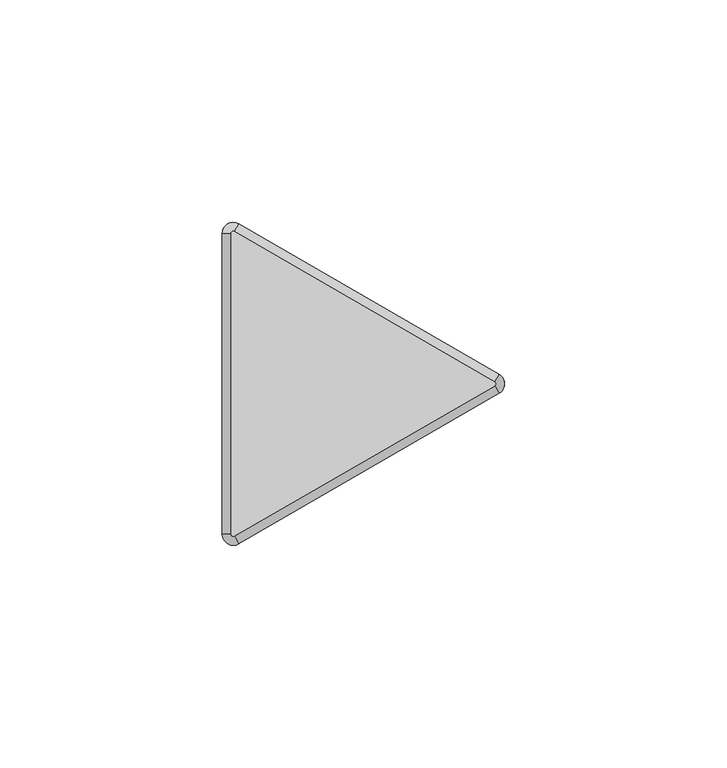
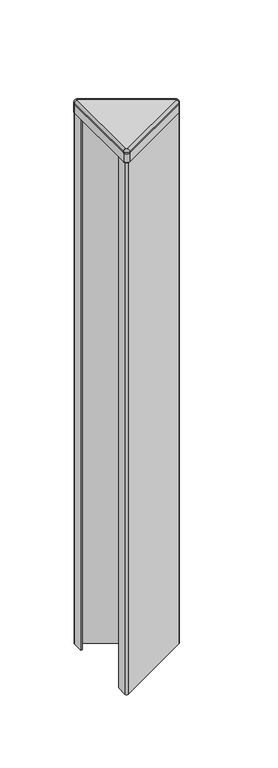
"""IFC4 building model written with IfcOpenShell, lengths in millimetres: furniture geometry, Steelcase - Answer Solution - Panel - 120deg Change-of-Height Trim - Thin : Y Corner - 18H for 48H App."""

from ifc_helpers import new_model, si_unit, point, frame, frame_2d, origin, place, context, project, spatial, polyline, circle_curve, ellipse_curve, trimmed, segment, composite_curve, outline, extrude, source, transform, mapped, element, save
from ifc_brep_helpers import plane_surface, cylinder_surface, revolved_surface, advanced_brep


def furniture_7a94df5c(model_context):
    return source(origin(), model_context, "Body", "SolidModel", [
        advanced_brep(
        [(-10.518645, -37.3335529, 1223.6628978), (-14.2052101, -35.2051135, 1223.6628978), (-14.2052101, -35.2051135, 1222.7164663), (-10.518645, -37.3335529, 1222.7164663), (-11.46175, -35.7000471, 1225.55), (-12.319, -35.2051135, 1225.55), (-11.46175, -35.7000471, 1222.7164663), (-12.319, -35.2051135, 1222.7164663), (48.0429908, -3.5229767, 1222.7164663), (48.0429908, -3.5229767, 1223.6628978), (47.0998858, -1.8894709, 1225.55), (47.0998858, -1.8894709, 1222.7164663), (48.0429908, 0.733902, 1223.6628978), (48.0429908, 0.733902, 1222.7164663), (47.0998858, -0.8996038, 1225.55), (47.0998858, -0.8996038, 1222.7164663), (-10.518645, 34.5444782, 1222.7164663), (-14.2052101, 32.4160388, 1222.7164663), (-11.46175, 32.9109723, 1222.7164663), (-12.319, 32.4160388, 1222.7164663), (-10.518645, 34.5444782, 1223.6628978), (-11.46175, 32.9109723, 1225.55), (-14.2052101, 32.4160388, 1223.6628978), (-12.319, 32.4160388, 1225.55)],
        [
            (0, 1, circle_curve(frame((-11.7475, -35.2051135, 1223.6628978), z_axis=(0.0, 0.0, -1.0), x_axis=(-1.0, 0.0, 0.0)), 2.4577101)),
            (1, 2),
            (2, 3, circle_curve(frame((-11.7475, -35.2051135, 1222.7164663), z_axis=(0.0, 0.0, 1.0), x_axis=(-1.0, 0.0, 0.0)), 2.4577101)),
            (3, 0),
            (4, 5, circle_curve(frame((-11.7475, -35.2051135, 1225.55), z_axis=(0.0, 0.0, -1.0), x_axis=(-1.0, 0.0, 0.0)), 0.5715)),
            (5, 1, circle_curve(frame((-12.3181076, -35.2051135, 1223.6628978), z_axis=(0.0, -1.0, 0.0), x_axis=(1.0, 0.0, 0.0)), 1.8871024)),
            (0, 4, circle_curve(frame((-11.4621962, -35.6992743, 1223.6628978), z_axis=(-0.8660254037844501, -0.49999999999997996, 0.0), x_axis=(-0.49999999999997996, 0.8660254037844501, 0.0)), 1.8871024)),
            (6, 7, circle_curve(frame((-11.7475, -35.2051135, 1222.7164663), z_axis=(0.0, 0.0, -1.0), x_axis=(-1.0, 0.0, 0.0)), 0.5715)),
            (7, 5),
            (4, 6),
            (3, 8),
            (8, 9),
            (9, 0),
            (9, 10, circle_curve(frame((47.0994396, -1.8886981, 1223.6628978), z_axis=(-0.8660254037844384, -0.5000000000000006, 0.0), x_axis=(-0.5000000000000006, 0.8660254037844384, 0.0)), 1.8871024)),
            (10, 4),
            (10, 11),
            (11, 6),
            (12, 9, circle_curve(frame((46.8141358, -1.3945374, 1223.6628978), z_axis=(0.0, 0.0, -1.0), x_axis=(0.4999999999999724, -0.8660254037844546, 0.0)), 2.4577101)),
            (8, 13, circle_curve(frame((46.8141358, -1.3945374, 1222.7164663), z_axis=(0.0, 0.0, 1.0), x_axis=(0.4999999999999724, -0.8660254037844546, 0.0)), 2.4577101)),
            (13, 12),
            (14, 10, circle_curve(frame((46.8141358, -1.3945374, 1225.55), z_axis=(0.0, 0.0, -1.0), x_axis=(0.4999999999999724, -0.8660254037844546, 0.0)), 0.5715)),
            (12, 14, circle_curve(frame((47.0994396, -0.9003766, 1223.6628978), z_axis=(0.8660254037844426, -0.49999999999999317, 0.0), x_axis=(-0.49999999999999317, -0.8660254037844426, 0.0)), 1.8871024)),
            (15, 11, circle_curve(frame((46.8141358, -1.3945374, 1222.7164663), z_axis=(0.0, 0.0, -1.0), x_axis=(0.4999999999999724, -0.8660254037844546, 0.0)), 0.5715)),
            (14, 15),
            (16, 13),
            (2, 17),
            (17, 16, circle_curve(frame((-11.7475, 32.4160388, 1222.7164663), z_axis=(0.0, 0.0, -1.0), x_axis=(0.500000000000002, 0.8660254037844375, 0.0)), 2.4577101)),
            (15, 18),
            (18, 19, circle_curve(frame((-11.7475, 32.4160388, 1222.7164663), z_axis=(0.0, 0.0, 1.0), x_axis=(0.500000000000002, 0.8660254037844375, 0.0)), 0.5715)),
            (19, 7),
            (16, 20),
            (20, 12),
            (20, 21, circle_curve(frame((-11.4621962, 32.9101995, 1223.6628978), z_axis=(0.8660254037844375, -0.5000000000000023, 0.0), x_axis=(-0.5000000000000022, -0.8660254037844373, 0.0)), 1.8871024)),
            (21, 14),
            (21, 18),
            (22, 20, circle_curve(frame((-11.7475, 32.4160388, 1223.6628978), z_axis=(0.0, 0.0, -1.0), x_axis=(0.500000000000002, 0.8660254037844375, 0.0)), 2.4577101)),
            (17, 22),
            (23, 21, circle_curve(frame((-11.7475, 32.4160388, 1225.55), z_axis=(0.0, 0.0, -1.0), x_axis=(0.500000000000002, 0.8660254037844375, 0.0)), 0.5715)),
            (22, 23, circle_curve(frame((-12.3181076, 32.4160388, 1223.6628978), z_axis=(0.0, 1.0, 0.0), x_axis=(1.0, 0.0, 0.0)), 1.8871024)),
            (23, 19),
            (1, 22),
            (5, 23),
        ],
        [
            cylinder_surface(frame((-11.7475, -35.2051135, 0.0), z_axis=(0.0, 0.0, 1.0), x_axis=(-1.0, 0.0, 0.0)), 2.4577101),
            revolved_surface(trimmed(ellipse_curve(frame((-12.3181076, -35.2051135, 1223.6628978), z_axis=(0.0, 1.0, 0.0), x_axis=(1.0, 0.0, 0.0)), 1.8871024, 1.8871024), [point((-14.2052101, -35.2051135, 1223.6628978))], [point((-12.319, -35.2051135, 1225.55))], True, "CARTESIAN"), (-11.7475, -35.2051135, 0.0), (0.0, 0.0, 1.0)),
            revolved_surface(polyline([(-12.319, -35.2051135, 1225.55), (-12.319, -35.2051135, 1222.7164663)]), (-11.7475, -35.2051135, 0.0), (0.0, 0.0, 1.0)),
            plane_surface(frame((-10.518645, -37.3335529, 1222.7164663), z_axis=(0.500000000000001, -0.8660254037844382, 0.0), x_axis=(0.8660254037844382, 0.500000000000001, 0.0))),
            cylinder_surface(frame((-11.4621962, -35.6992743, 1223.6628978), z_axis=(-0.8660254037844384, -0.5000000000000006, 0.0), x_axis=(-0.5000000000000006, 0.8660254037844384, 0.0)), 1.8871024),
            plane_surface(frame((-11.46175, -35.7000471, 1225.55), z_axis=(-0.500000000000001, 0.8660254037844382, 0.0), x_axis=(0.8660254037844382, 0.500000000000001, 0.0))),
            cylinder_surface(frame((46.8141358, -1.3945374, 0.0), z_axis=(0.0, 0.0, 1.0), x_axis=(0.4999999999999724, -0.8660254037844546, 0.0)), 2.4577101),
            revolved_surface(trimmed(ellipse_curve(frame((47.0994396, -1.8886981, 1223.6628978), z_axis=(-0.8660254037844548, -0.499999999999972, 0.0), x_axis=(-0.499999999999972, 0.8660254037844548, 0.0)), 1.8871024, 1.8871024), [point((48.0429908, -3.5229767, 1223.6628978))], [point((47.0998858, -1.8894709, 1225.55))], True, "CARTESIAN"), (46.8141358, -1.3945374, 0.0), (0.0, 0.0, 1.0)),
            revolved_surface(polyline([(47.09988579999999, -1.8894709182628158, 1225.55), (47.09988579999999, -1.8894709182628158, 1222.7164663)]), (46.8141358, -1.3945374, 0.0), (0.0, 0.0, 1.0)),
            plane_surface(frame((47.0998858, -0.8996038, 1222.7164663), z_axis=(0.0, 0.0, -1.0), x_axis=(-0.866025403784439, 0.49999999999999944, 0.0))),
            plane_surface(frame((48.0429908, 0.733902, 1222.7164663), z_axis=(0.5000000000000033, 0.8660254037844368, 0.0), x_axis=(-0.8660254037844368, 0.5000000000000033, 0.0))),
            cylinder_surface(frame((47.0994396, -0.9003766, 1223.6628978), z_axis=(0.8660254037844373, -0.5000000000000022, 0.0), x_axis=(-0.5000000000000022, -0.8660254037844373, 0.0)), 1.8871024),
            plane_surface(frame((47.0998858, -0.8996038, 1225.55), z_axis=(-0.49999999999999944, -0.866025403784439, 0.0), x_axis=(-0.866025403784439, 0.49999999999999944, 0.0))),
            cylinder_surface(frame((-11.7475, 32.4160388, 0.0), z_axis=(0.0, 0.0, 1.0), x_axis=(0.500000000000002, 0.8660254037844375, 0.0)), 2.4577101),
            revolved_surface(trimmed(ellipse_curve(frame((-11.4621962, 32.9101995, 1223.6628978), z_axis=(0.866025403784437, -0.5000000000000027, 0.0), x_axis=(-0.5000000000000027, -0.866025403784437, 0.0)), 1.8871024, 1.8871024), [point((-10.518645, 34.5444782, 1223.6628978))], [point((-11.46175, 32.9109723, 1225.55))], True, "CARTESIAN"), (-11.7475, 32.4160388, 0.0), (0.0, 0.0, 1.0)),
            revolved_surface(polyline([(-11.461749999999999, 32.91097231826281, 1225.55), (-11.461749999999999, 32.91097231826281, 1222.7164663)]), (-11.7475, 32.4160388, 0.0), (0.0, 0.0, 1.0)),
            plane_surface(frame((-14.2052101, 32.4160388, 1222.7164663), z_axis=(-1.0, 0.0, 0.0), x_axis=(0.0, -1.0, 0.0))),
            cylinder_surface(frame((-12.3181076, 32.4160388, 1223.6628978), z_axis=(0.0, 1.0, 0.0), x_axis=(1.0, 0.0, 0.0)), 1.8871024),
            plane_surface(frame((-12.319, 32.4160388, 1225.55), z_axis=(1.0, 0.0, 0.0), x_axis=(0.0, -1.0, 0.0))),
        ],
        [
            (0, [[1, 2, 3, 4]]),
            (1, [[5, 6, -1, 7]]),
            (2, [[8, 9, -5, 10]]),
            (3, [[-4, 11, 12, 13]]),
            (4, [[-7, -13, 14, 15]]),
            (5, [[-10, -15, 16, 17]]),
            (6, [[18, -12, 19, 20]]),
            (7, [[21, -14, -18, 22]]),
            (8, [[23, -16, -21, 24]]),
            (9, [[25, -19, -11, -3, 26, 27], [-8, -17, -23, 28, 29, 30]]),
            (10, [[-20, -25, 31, 32]]),
            (11, [[-22, -32, 33, 34]]),
            (12, [[-24, -34, 35, -28]]),
            (13, [[36, -31, -27, 37]]),
            (14, [[38, -33, -36, 39]]),
            (15, [[-29, -35, -38, 40]]),
            (16, [[-37, -26, -2, 41]]),
            (17, [[-39, -41, -6, 42]]),
            (18, [[-40, -42, -9, -30]]),
        ],
    ),
        extrude(outline(composite_curve([segment(trimmed(circle_curve(frame_2d((47.9522001, -1.3945374)), 1.2978651), [point((48.6011327, -0.2705532))], [point((48.6011327, -2.5185215))], False, "CARTESIAN"), True, "CONTINUOUS"), segment(polyline([(48.6011327, -2.5185215), (-11.6879343, -37.3264306)]), True, "CONTINUOUS"), segment(trimmed(circle_curve(frame_2d((-12.3300896, -36.2141852)), 1.2843104), [point((-11.6879343, -37.3264306))], [point((-13.6144, -36.2141852))], False, "CARTESIAN"), True, "CONTINUOUS"), segment(polyline([(-13.6144, -36.2141852), (-13.6144, -27.3303775), (-12.7, -27.3303775), (-12.7, -36.8548888), (48.7191304, -1.3945374), (-12.7, 34.0658141), (-12.7, 24.5413027), (-13.6144, 24.5413027), (-13.6144, 33.4106259)]), True, "CONTINUOUS"), segment(trimmed(circle_curve(frame_2d((-12.3217269, 33.4106259)), 1.2926731), [point((-13.6144, 33.4106259))], [point((-11.6753904, 34.5301136))], False, "CARTESIAN"), True, "CONTINUOUS"), segment(polyline([(-11.6753904, 34.5301136), (48.6011327, -0.2705532)]), True, "CONTINUOUS")], self_intersect=False)), frame((0.0, 0.0, 768.35), z_axis=(0.0, 0.0, 1.0), x_axis=(1.0, 0.0, 0.0)), (0.0, 0.0, 1.0), 447.04),
        extrude(outline(composite_curve([segment(trimmed(circle_curve(frame_2d((46.8261011, -1.3945374)), 0.5655173), [point((47.1088598, -0.904785))], [point((47.1088598, -1.8842897))], False, "CARTESIAN"), True, "CONTINUOUS"), segment(polyline([(47.1088598, -1.8842897), (-11.4505119, -35.6935587)]), True, "CONTINUOUS"), segment(trimmed(circle_curve(frame_2d((-11.7400079, -35.1921369)), 0.5789921), [point((-11.4505119, -35.6935587))], [point((-12.319, -35.1921369))], False, "CARTESIAN"), True, "CONTINUOUS"), segment(polyline([(-12.319, -35.1921369), (-12.319, 32.3985888)]), True, "CONTINUOUS"), segment(trimmed(circle_curve(frame_2d((-11.7374252, 32.3985888)), 0.5815748), [point((-12.319, 32.3985888))], [point((-11.4466378, 32.9022473))], False, "CARTESIAN"), True, "CONTINUOUS"), segment(polyline([(-11.4466378, 32.9022473), (47.1088598, -0.904785)]), True, "CONTINUOUS")], self_intersect=False)), frame((0.0, 0.0, 1222.7164663), z_axis=(0.0, 0.0, 1.0), x_axis=(1.0, 0.0, 0.0)), (0.0, 0.0, 1.0), 2.8335337),
        extrude(outline(composite_curve([segment(trimmed(circle_curve(frame_2d((46.8140443, -1.3945374)), 2.4577558), [point((48.0429222, 0.7339416))], [point((48.0429222, -3.5230163))], False, "CARTESIAN"), True, "CONTINUOUS"), segment(polyline([(48.0429222, -3.5230163), (-10.518058, -37.333214)]), True, "CONTINUOUS"), segment(trimmed(circle_curve(frame_2d((-11.7471087, -35.2044357)), 2.4581014), [point((-10.518058, -37.333214))], [point((-14.2052101, -35.2044357))], False, "CARTESIAN"), True, "CONTINUOUS"), segment(polyline([(-14.2052101, -35.2044357), (-14.2052101, 32.4160388)]), True, "CONTINUOUS"), segment(trimmed(circle_curve(frame_2d((-11.7475, 32.4160388)), 2.4577101), [point((-14.2052101, 32.4160388))], [point((-10.518645, 34.5444782))], False, "CARTESIAN"), True, "CONTINUOUS"), segment(polyline([(-10.518645, 34.5444782), (48.0429222, 0.7339416)]), True, "CONTINUOUS")], self_intersect=False)), frame((0.0, 0.0, 1215.39), z_axis=(0.0, 0.0, 1.0), x_axis=(1.0, 0.0, 0.0)), (0.0, 0.0, 1.0), 7.3264663),
    ])


if __name__ == "__main__":
    model = new_model("IFC4")
    model_context = context("Model", 3, world=origin())
    ifc_project = project(units=[si_unit("LENGTHUNIT", "METRE", prefix="MILLI")], contexts=[model_context])
    site = spatial("IfcSite", under=ifc_project)
    building = spatial("IfcBuilding", under=site)
    placement = place(None, origin())
    furniture_shape = furniture_7a94df5c(model_context)
    element("IfcFurniture", 1, ObjectType="Steelcase - Answer Solution - Panel - 120deg Change-of-Height Trim - Thin : Y Corner - 18H for 48H App", at=placement, inside=building, context=model_context, shape_type="MappedRepresentation", body=[
        mapped(furniture_shape, transform((0.0, 0.0, 0.0), x_axis=(1.0, 0.0, 0.0), y_axis=(0.0, 1.0, 0.0), z_axis=(0.0, 0.0, 1.0))),
    ])
    save(model, "model.ifc")
